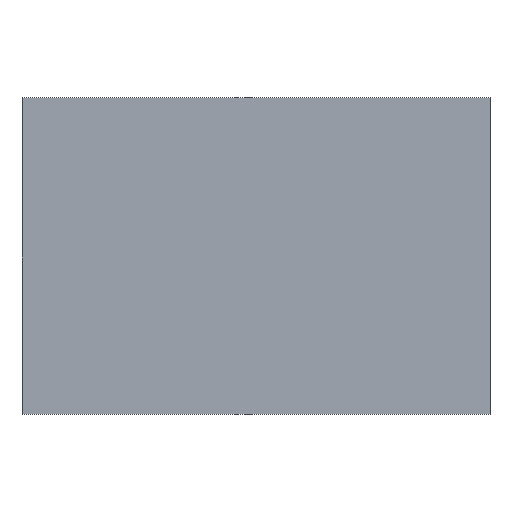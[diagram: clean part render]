
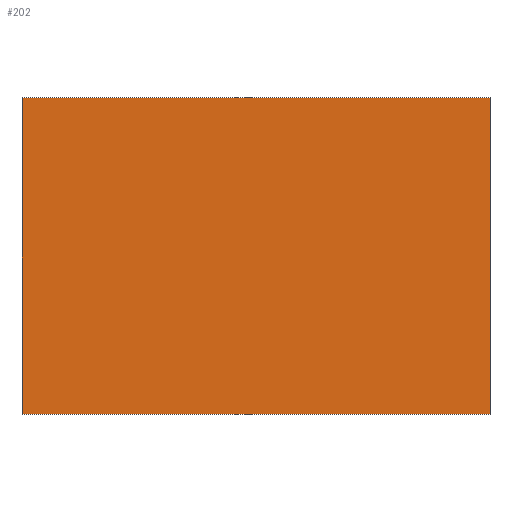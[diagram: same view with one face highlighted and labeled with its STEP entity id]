
A CAD part, top view. The second image highlights one B-rep face of the part: STEP entity #202.
In plain terms, the highlighted planar face has unit normal (0, 0, 1).
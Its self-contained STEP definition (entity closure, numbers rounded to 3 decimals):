
#14 = EDGE_CURVE ( 'NONE', #39, #42, #178, .T. ) ;
#15 = EDGE_CURVE ( 'NONE', #40, #39, #153, .T. ) ;
#18 = EDGE_CURVE ( 'NONE', #41, #40, #145, .T. ) ;
#21 = EDGE_CURVE ( 'NONE', #42, #41, #154, .T. ) ;
#27 = AXIS2_PLACEMENT_3D ( 'NONE', #119, #106, #105 ) ;
#39 = VERTEX_POINT ( 'NONE', #64 ) ;
#40 = VERTEX_POINT ( 'NONE', #83 ) ;
#41 = VERTEX_POINT ( 'NONE', #72 ) ;
#42 = VERTEX_POINT ( 'NONE', #66 ) ;
#54 = CARTESIAN_POINT ( 'NONE',  ( -354., 479., 6. ) ) ;
#64 = CARTESIAN_POINT ( 'NONE',  ( 354., 479., 6. ) ) ;
#66 = CARTESIAN_POINT ( 'NONE',  ( -354., 479., 6. ) ) ;
#72 = CARTESIAN_POINT ( 'NONE',  ( -354., 0., 6. ) ) ;
#73 = CARTESIAN_POINT ( 'NONE',  ( 354., 0., 6. ) ) ;
#78 = DIRECTION ( 'NONE',  ( 1., 0., 0. ) ) ;
#79 = DIRECTION ( 'NONE',  ( 0., -1., 0. ) ) ;
#83 = CARTESIAN_POINT ( 'NONE',  ( 354., 0., 6. ) ) ;
#87 = DIRECTION ( 'NONE',  ( -1., 0., 0. ) ) ;
#89 = CARTESIAN_POINT ( 'NONE',  ( -354., 0., 6. ) ) ;
#99 = DIRECTION ( 'NONE',  ( 0., 1., 0. ) ) ;
#105 = DIRECTION ( 'NONE',  ( 0., 1., 0. ) ) ;
#106 = DIRECTION ( 'NONE',  ( 0., 0., -1. ) ) ;
#119 = CARTESIAN_POINT ( 'NONE',  ( -354., 479., 6. ) ) ;
#121 = CARTESIAN_POINT ( 'NONE',  ( -354., 0., 6. ) ) ;
#122 = PLANE ( 'NONE',  #27 ) ;
#135 = ORIENTED_EDGE ( 'NONE', *, *, #15, .T. ) ;
#138 = ORIENTED_EDGE ( 'NONE', *, *, #14, .T. ) ;
#141 = VECTOR ( 'NONE', #79, 1000. ) ;
#145 = LINE ( 'NONE', #121, #176 ) ;
#147 = FACE_OUTER_BOUND ( 'NONE', #150, .T. ) ;
#150 = EDGE_LOOP ( 'NONE', ( #174, #166, #135, #138 ) ) ;
#153 = LINE ( 'NONE', #73, #158 ) ;
#154 = LINE ( 'NONE', #89, #141 ) ;
#158 = VECTOR ( 'NONE', #99, 1000. ) ;
#166 = ORIENTED_EDGE ( 'NONE', *, *, #18, .T. ) ;
#172 = VECTOR ( 'NONE', #87, 1000. ) ;
#174 = ORIENTED_EDGE ( 'NONE', *, *, #21, .T. ) ;
#176 = VECTOR ( 'NONE', #78, 1000. ) ;
#178 = LINE ( 'NONE', #54, #172 ) ;
#202 = ADVANCED_FACE ( 'NONE', ( #147 ), #122, .F. ) ;
